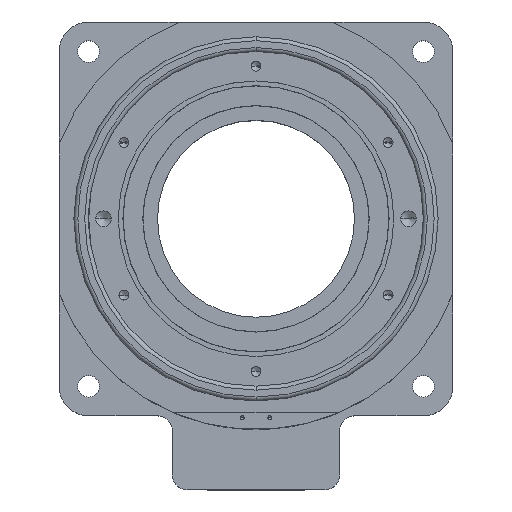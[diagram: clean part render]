
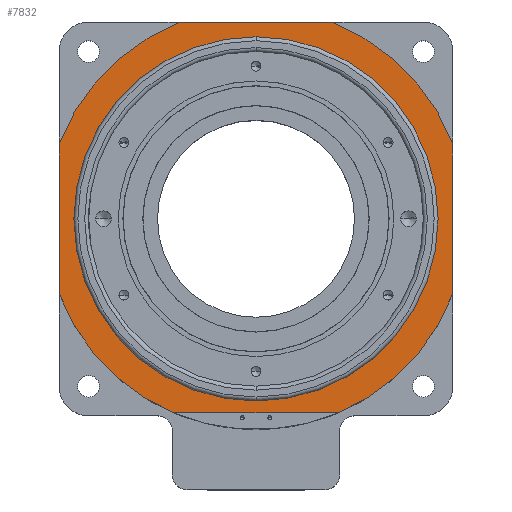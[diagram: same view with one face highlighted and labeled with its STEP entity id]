
A CAD part, top view. The second image highlights one B-rep face of the part: STEP entity #7832.
In plain terms, the highlighted planar face has unit normal (0, 0, 1).
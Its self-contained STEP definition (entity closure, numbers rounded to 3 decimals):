
#31 = DIRECTION ( 'NONE',  ( 0., -1., 0. ) ) ;
#98 = DIRECTION ( 'NONE',  ( 0., 0., 1. ) ) ;
#242 = EDGE_CURVE ( 'NONE', #8454, #7254, #321, .T. ) ;
#321 = LINE ( 'NONE', #1802, #6175 ) ;
#441 = CARTESIAN_POINT ( 'NONE',  ( 20.124, 23.781, 258.5 ) ) ;
#548 = ORIENTED_EDGE ( 'NONE', *, *, #10073, .T. ) ;
#751 = VERTEX_POINT ( 'NONE', #8651 ) ;
#891 = DIRECTION ( 'NONE',  ( -1., 0., 0. ) ) ;
#917 = CARTESIAN_POINT ( 'NONE',  ( -79.876, -76.219, 258.5 ) ) ;
#1319 = DIRECTION ( 'NONE',  ( 1., 0., 0. ) ) ;
#1341 = CIRCLE ( 'NONE', #2045, 107. ) ;
#1592 = ORIENTED_EDGE ( 'NONE', *, *, #7979, .T. ) ;
#1624 = FACE_OUTER_BOUND ( 'NONE', #7121, .T. ) ;
#1736 = CARTESIAN_POINT ( 'NONE',  ( 120.124, -14.285, 258.5 ) ) ;
#1799 = LINE ( 'NONE', #917, #3853 ) ;
#1802 = CARTESIAN_POINT ( 'NONE',  ( 120.124, -76.219, 258.5 ) ) ;
#1970 = CARTESIAN_POINT ( 'NONE',  ( 61.918, -74.719, 258.5 ) ) ;
#2031 = VERTEX_POINT ( 'NONE', #10385 ) ;
#2045 = AXIS2_PLACEMENT_3D ( 'NONE', #441, #6524, #1319 ) ;
#2585 = AXIS2_PLACEMENT_3D ( 'NONE', #8236, #3053, #9121 ) ;
#2617 = VERTEX_POINT ( 'NONE', #8232 ) ;
#2692 = DIRECTION ( 'NONE',  ( 0., 0., 1. ) ) ;
#2773 = DIRECTION ( 'NONE',  ( 0., 0., 1. ) ) ;
#2892 = CARTESIAN_POINT ( 'NONE',  ( -21.671, -74.719, 258.5 ) ) ;
#3053 = DIRECTION ( 'NONE',  ( 0., 0., 1. ) ) ;
#3218 = ORIENTED_EDGE ( 'NONE', *, *, #5280, .F. ) ;
#3361 = EDGE_CURVE ( 'NONE', #7608, #6869, #10990, .T. ) ;
#3422 = AXIS2_PLACEMENT_3D ( 'NONE', #3437, #11226, #6044 ) ;
#3429 = VERTEX_POINT ( 'NONE', #1970 ) ;
#3437 = CARTESIAN_POINT ( 'NONE',  ( 20.124, 23.781, 258.5 ) ) ;
#3853 = VECTOR ( 'NONE', #31, 1000. ) ;
#4870 = LINE ( 'NONE', #10600, #9510 ) ;
#4887 = CIRCLE ( 'NONE', #9525, 107. ) ;
#4953 = EDGE_CURVE ( 'NONE', #2617, #751, #1799, .T. ) ;
#5124 = ORIENTED_EDGE ( 'NONE', *, *, #6879, .T. ) ;
#5138 = DIRECTION ( 'NONE',  ( 0., 0., 1. ) ) ;
#5177 = CARTESIAN_POINT ( 'NONE',  ( 120.124, 61.847, 258.5 ) ) ;
#5280 = EDGE_CURVE ( 'NONE', #6869, #7608, #8042, .T. ) ;
#5288 = DIRECTION ( 'NONE',  ( 0., 1., 0. ) ) ;
#5308 = AXIS2_PLACEMENT_3D ( 'NONE', #7884, #2692, #8769 ) ;
#5310 = CARTESIAN_POINT ( 'NONE',  ( 20.124, 23.781, 258.5 ) ) ;
#5381 = ORIENTED_EDGE ( 'NONE', *, *, #9073, .T. ) ;
#5393 = DIRECTION ( 'NONE',  ( -1., 0., 0. ) ) ;
#5772 = CARTESIAN_POINT ( 'NONE',  ( -72.376, 23.781, 258.5 ) ) ;
#5945 = CIRCLE ( 'NONE', #6622, 107. ) ;
#5969 = FACE_BOUND ( 'NONE', #7497, .T. ) ;
#6044 = DIRECTION ( 'NONE',  ( 1., 0., 0. ) ) ;
#6161 = CARTESIAN_POINT ( 'NONE',  ( 112.624, 23.781, 258.5 ) ) ;
#6175 = VECTOR ( 'NONE', #5288, 1000. ) ;
#6193 = DIRECTION ( 'NONE',  ( 1., 0., 0. ) ) ;
#6489 = VECTOR ( 'NONE', #891, 1000. ) ;
#6524 = DIRECTION ( 'NONE',  ( 0., 0., 1. ) ) ;
#6622 = AXIS2_PLACEMENT_3D ( 'NONE', #10342, #5138, #11198 ) ;
#6750 = LINE ( 'NONE', #6973, #6489 ) ;
#6869 = VERTEX_POINT ( 'NONE', #6161 ) ;
#6879 = EDGE_CURVE ( 'NONE', #751, #8652, #4887, .T. ) ;
#6973 = CARTESIAN_POINT ( 'NONE',  ( -38.331, -74.719, 258.5 ) ) ;
#7121 = EDGE_LOOP ( 'NONE', ( #9418, #548, #11093, #8598, #1592, #5381, #8730, #5124 ) ) ;
#7189 = CIRCLE ( 'NONE', #5308, 107. ) ;
#7254 = VERTEX_POINT ( 'NONE', #5177 ) ;
#7497 = EDGE_LOOP ( 'NONE', ( #3218, #9799 ) ) ;
#7608 = VERTEX_POINT ( 'NONE', #5772 ) ;
#7832 = ADVANCED_FACE ( 'NONE', ( #1624, #5969 ), #8636, .T. ) ;
#7884 = CARTESIAN_POINT ( 'NONE',  ( 20.124, 23.781, 258.5 ) ) ;
#7957 = CARTESIAN_POINT ( 'NONE',  ( 20.124, 23.781, 258.5 ) ) ;
#7979 = EDGE_CURVE ( 'NONE', #10294, #2031, #4870, .T. ) ;
#8010 = AXIS2_PLACEMENT_3D ( 'NONE', #7957, #2773, #8843 ) ;
#8042 = CIRCLE ( 'NONE', #2585, 92.5 ) ;
#8232 = CARTESIAN_POINT ( 'NONE',  ( -79.876, 61.847, 258.5 ) ) ;
#8236 = CARTESIAN_POINT ( 'NONE',  ( 20.124, 23.781, 258.5 ) ) ;
#8454 = VERTEX_POINT ( 'NONE', #1736 ) ;
#8489 = EDGE_CURVE ( 'NONE', #7254, #10294, #7189, .T. ) ;
#8598 = ORIENTED_EDGE ( 'NONE', *, *, #8489, .T. ) ;
#8636 = PLANE ( 'NONE',  #3422 ) ;
#8651 = CARTESIAN_POINT ( 'NONE',  ( -79.876, -14.285, 258.5 ) ) ;
#8652 = VERTEX_POINT ( 'NONE', #2892 ) ;
#8730 = ORIENTED_EDGE ( 'NONE', *, *, #4953, .T. ) ;
#8769 = DIRECTION ( 'NONE',  ( 1., 0., 0. ) ) ;
#8843 = DIRECTION ( 'NONE',  ( 1., 0., 0. ) ) ;
#9073 = EDGE_CURVE ( 'NONE', #2031, #2617, #5945, .T. ) ;
#9121 = DIRECTION ( 'NONE',  ( 1., 0., 0. ) ) ;
#9418 = ORIENTED_EDGE ( 'NONE', *, *, #10495, .F. ) ;
#9510 = VECTOR ( 'NONE', #5393, 1000. ) ;
#9525 = AXIS2_PLACEMENT_3D ( 'NONE', #5310, #98, #6193 ) ;
#9799 = ORIENTED_EDGE ( 'NONE', *, *, #3361, .F. ) ;
#10073 = EDGE_CURVE ( 'NONE', #3429, #8454, #1341, .T. ) ;
#10294 = VERTEX_POINT ( 'NONE', #11134 ) ;
#10342 = CARTESIAN_POINT ( 'NONE',  ( 20.124, 23.781, 258.5 ) ) ;
#10385 = CARTESIAN_POINT ( 'NONE',  ( -17.942, 123.781, 258.5 ) ) ;
#10495 = EDGE_CURVE ( 'NONE', #3429, #8652, #6750, .T. ) ;
#10600 = CARTESIAN_POINT ( 'NONE',  ( 120.124, 123.781, 258.5 ) ) ;
#10990 = CIRCLE ( 'NONE', #8010, 92.5 ) ;
#11093 = ORIENTED_EDGE ( 'NONE', *, *, #242, .T. ) ;
#11134 = CARTESIAN_POINT ( 'NONE',  ( 58.189, 123.781, 258.5 ) ) ;
#11198 = DIRECTION ( 'NONE',  ( 1., 0., 0. ) ) ;
#11226 = DIRECTION ( 'NONE',  ( 0., 0., 1. ) ) ;
